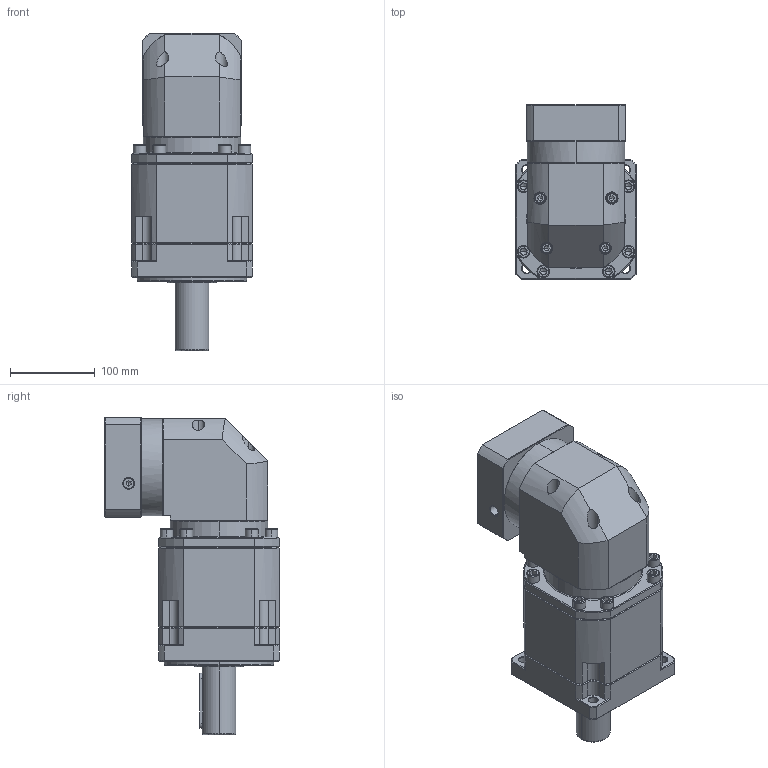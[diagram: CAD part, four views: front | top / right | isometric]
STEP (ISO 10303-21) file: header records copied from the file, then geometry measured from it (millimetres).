
FILE_DESCRIPTION (( 'STEP AP214' ), '1' );
FILE_NAME ('ZBR142A-D40-L3-P2-24-110-130-M8.step', '2023-09-02T08:11:21', ( '' ), ( '' ), 'SwSTEP 2.0', 'SolidWorks 2016', '' );
FILE_SCHEMA (( 'AUTOMOTIVE_DESIGN' ));
Length unit declared in the file: millimetre
Products named in the file (1): ZBR142A-D40-L3-P2-24-110-130-M8
Bounding box: 142 x 205.9 x 375.2 mm (x, y, z)
Volume: 5118841.9 mm3; surface area: 337274.2 mm2
Topology: 6 solids, 6 shells, 2589 faces, 6739 edges, 4276 vertices
Faces by surface type: plane 1232, cylinder 502, bspline 410, cone 399, torus 46
Entity records: 137023 total; most frequent: CARTESIAN_POINT 48522, ORIENTED_EDGE 13370, DIRECTION 10941, EDGE_CURVE 6685, VERTEX_POINT 4276, LINE 4275, VECTOR 4275, AXIS2_PLACEMENT_3D 3333
